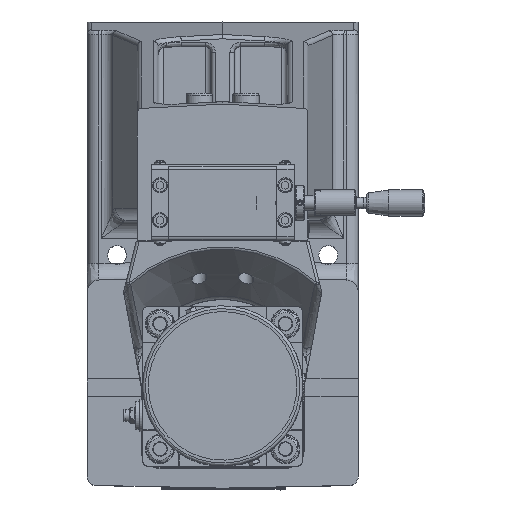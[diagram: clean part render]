
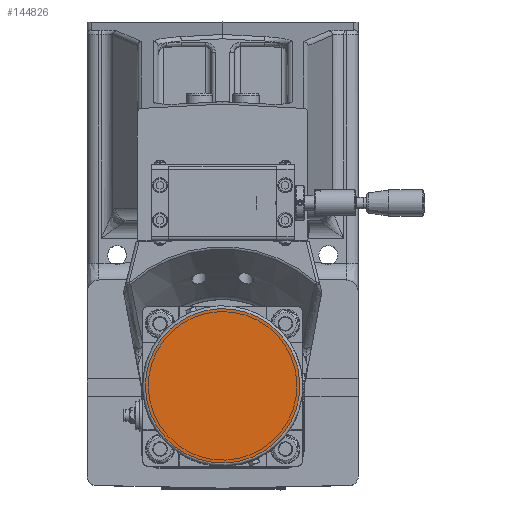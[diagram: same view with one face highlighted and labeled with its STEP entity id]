
A CAD part, top view. The second image highlights one B-rep face of the part: STEP entity #144826.
In plain terms, the highlighted planar face has unit normal (0, 0, 1).
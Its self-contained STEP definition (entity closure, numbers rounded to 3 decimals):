
#38045=PLANE('',#152874);
#44934=FACE_OUTER_BOUND('',#52970,.T.);
#52970=EDGE_LOOP('',(#111974));
#58630=CIRCLE('',#152873,53.);
#65536=VERTEX_POINT('',#216779);
#82235=EDGE_CURVE('',#65536,#65536,#58630,.T.);
#111974=ORIENTED_EDGE('',*,*,#82235,.F.);
#144826=ADVANCED_FACE('',(#44934),#38045,.F.);
#152873=AXIS2_PLACEMENT_3D('',#216780,#170936,#170937);
#152874=AXIS2_PLACEMENT_3D('',#216781,#170938,#170939);
#170936=DIRECTION('center_axis',(0.,0.,
-1.));
#170937=DIRECTION('ref_axis',(-0.924,-0.383,0.));
#170938=DIRECTION('center_axis',(0.,0.,
-1.));
#170939=DIRECTION('ref_axis',(-0.924,-0.383,0.));
#216779=CARTESIAN_POINT('',(48.966,-11.718,425.75));
#216780=CARTESIAN_POINT('Origin',(0.,-32.,
425.75));
#216781=CARTESIAN_POINT('Origin',(0.,-32.,
425.75));
